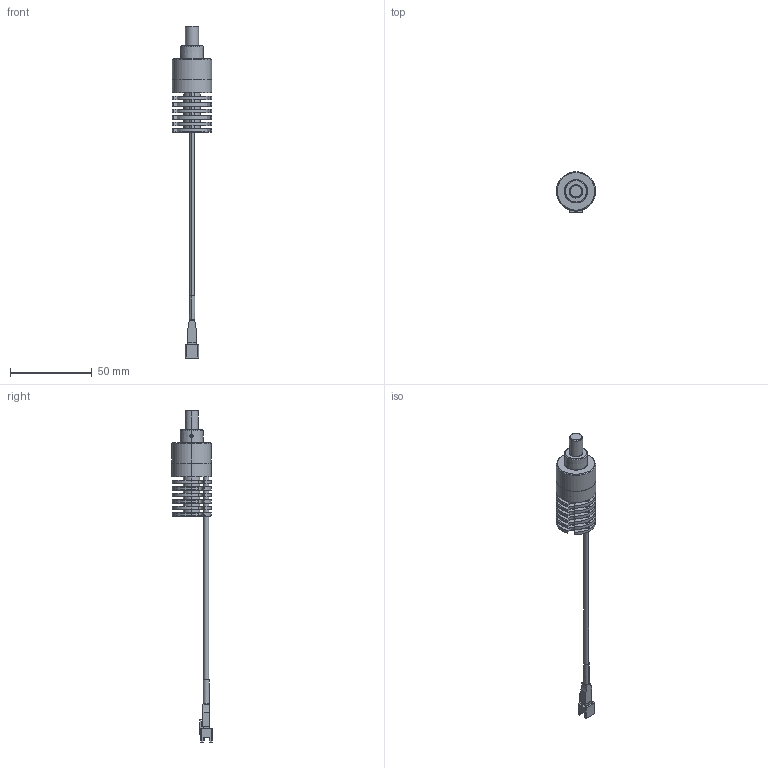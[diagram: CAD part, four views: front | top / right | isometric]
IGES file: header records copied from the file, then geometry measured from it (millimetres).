
Start section: SolidWorks IGES file using analytic representation for surfaces
Global section: file name: C:\Users\88691\Desktop\VST LIGHTING\CO-AXIAL SPOT LIGHT (ｦPｶbﾂI･弡ｽ)\3WﾂI･弡ｽ\VSP-A1-2P_Drawing_L1240 - A00100.IGS,1; native system: 5HSolidWorks 2020; preprocessor: SolidWorks 2020; author: 88691; date: 240229.112905; units: millimetre
Bounding box: 24 x 24.5 x 203.18 mm (x, y, z)
Surface area: 12533.3 mm2 (no closed solid volume)
Topology: 0 solids, 0 shells, 468 faces, 5473 edges, 5473 vertices
Faces by surface type: bspline 279, revolution 189
